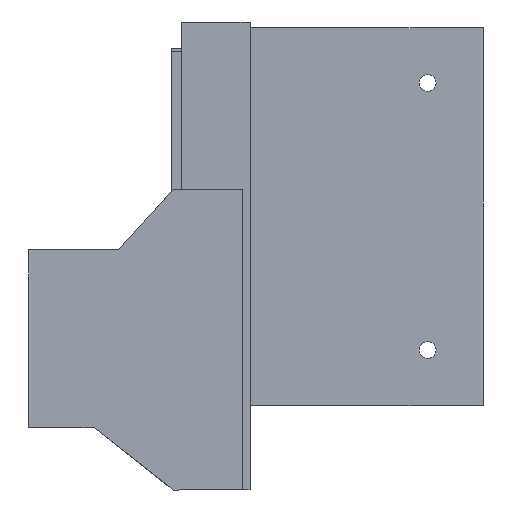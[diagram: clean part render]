
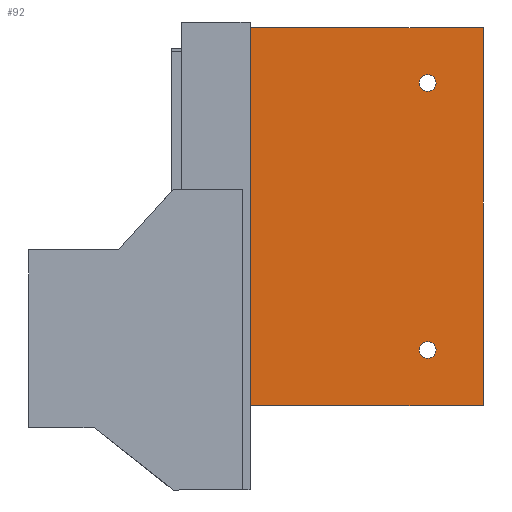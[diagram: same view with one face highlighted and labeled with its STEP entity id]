
A CAD part, front view. The second image highlights one B-rep face of the part: STEP entity #92.
In plain terms, the highlighted planar face has unit normal (0, -1, 0).
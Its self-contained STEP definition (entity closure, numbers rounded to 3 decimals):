
#44 = EDGE_CURVE ( 'NONE', #2313, #2314, #1084, .T. ) ;
#46 = EDGE_CURVE ( 'NONE', #2314, #2313, #1087, .T. ) ;
#92 = ADVANCED_FACE ( 'NONE', ( #962, #948, #966 ), #1528, .F. ) ;
#195 = VECTOR ( 'NONE', #1782, 1000. ) ;
#201 = LINE ( 'NONE', #1774, #195 ) ;
#202 = CIRCLE ( 'NONE', #516, 3. ) ;
#342 = ORIENTED_EDGE ( 'NONE', *, *, #1264, .T. ) ;
#409 = VERTEX_POINT ( 'NONE', #1652 ) ;
#486 = AXIS2_PLACEMENT_3D ( 'NONE', #1529, #1530, #1531 ) ;
#516 = AXIS2_PLACEMENT_3D ( 'NONE', #1777, #1779, #1780 ) ;
#524 = AXIS2_PLACEMENT_3D ( 'NONE', #2024, #1101, #1102 ) ;
#530 = ORIENTED_EDGE ( 'NONE', *, *, #2116, .T. ) ;
#534 = ORIENTED_EDGE ( 'NONE', *, *, #1265, .F. ) ;
#536 = ORIENTED_EDGE ( 'NONE', *, *, #2103, .T. ) ;
#541 = ORIENTED_EDGE ( 'NONE', *, *, #2131, .F. ) ;
#566 = ORIENTED_EDGE ( 'NONE', *, *, #1409, .F. ) ;
#610 = ORIENTED_EDGE ( 'NONE', *, *, #2111, .F. ) ;
#612 = LINE ( 'NONE', #1862, #613 ) ;
#613 = VECTOR ( 'NONE', #1863, 1000. ) ;
#645 = VECTOR ( 'NONE', #1940, 1000. ) ;
#655 = LINE ( 'NONE', #1928, #645 ) ;
#673 = LINE ( 'NONE', #1957, #674 ) ;
#674 = VECTOR ( 'NONE', #1958, 1000. ) ;
#676 = LINE ( 'NONE', #1965, #689 ) ;
#689 = VECTOR ( 'NONE', #1975, 1000. ) ;
#697 = LINE ( 'NONE', #1982, #698 ) ;
#698 = VECTOR ( 'NONE', #1983, 1000. ) ;
#699 = LINE ( 'NONE', #1984, #700 ) ;
#700 = VECTOR ( 'NONE', #1985, 1000. ) ;
#729 = LINE ( 'NONE', #2014, #730 ) ;
#730 = VECTOR ( 'NONE', #2015, 1000. ) ;
#756 = CIRCLE ( 'NONE', #524, 3. ) ;
#786 = ORIENTED_EDGE ( 'NONE', *, *, #2147, .T. ) ;
#856 = ORIENTED_EDGE ( 'NONE', *, *, #46, .T. ) ;
#866 = VERTEX_POINT ( 'NONE', #1675 ) ;
#869 = VERTEX_POINT ( 'NONE', #1680 ) ;
#870 = VERTEX_POINT ( 'NONE', #1681 ) ;
#889 = VERTEX_POINT ( 'NONE', #1700 ) ;
#892 = VERTEX_POINT ( 'NONE', #1703 ) ;
#893 = VERTEX_POINT ( 'NONE', #1704 ) ;
#948 = FACE_BOUND ( 'NONE', #1315, .T. ) ;
#962 = FACE_BOUND ( 'NONE', #2260, .T. ) ;
#966 = FACE_OUTER_BOUND ( 'NONE', #1320, .T. ) ;
#1084 = CIRCLE ( 'NONE', #2092, 3. ) ;
#1087 = CIRCLE ( 'NONE', #1296, 3. ) ;
#1101 = DIRECTION ( 'NONE',  ( 0., 1., 0. ) ) ;
#1102 = DIRECTION ( 'NONE',  ( -1., 0., 0. ) ) ;
#1122 = CARTESIAN_POINT ( 'NONE',  ( -71., 0., 116. ) ) ;
#1144 = CARTESIAN_POINT ( 'NONE',  ( -3., 0., 0. ) ) ;
#1174 = CARTESIAN_POINT ( 'NONE',  ( -71., 0., -20. ) ) ;
#1175 = CARTESIAN_POINT ( 'NONE',  ( 3., 0., 96. ) ) ;
#1176 = CARTESIAN_POINT ( 'NONE',  ( -3., 0., 96. ) ) ;
#1230 = CARTESIAN_POINT ( 'NONE',  ( 0., 0., 96. ) ) ;
#1232 = CARTESIAN_POINT ( 'NONE',  ( 0., 0., 96. ) ) ;
#1233 = DIRECTION ( 'NONE',  ( 0., 1., 0. ) ) ;
#1236 = DIRECTION ( 'NONE',  ( -1., 0., 0. ) ) ;
#1248 = DIRECTION ( 'NONE',  ( -1., 0., 0. ) ) ;
#1253 = DIRECTION ( 'NONE',  ( 0., 1., 0. ) ) ;
#1264 = EDGE_CURVE ( 'NONE', #893, #2282, #202, .T. ) ;
#1265 = EDGE_CURVE ( 'NONE', #2276, #892, #201, .T. ) ;
#1296 = AXIS2_PLACEMENT_3D ( 'NONE', #1230, #1253, #1248 ) ;
#1315 = EDGE_LOOP ( 'NONE', ( #856, #2201 ) ) ;
#1320 = EDGE_LOOP ( 'NONE', ( #566, #2213, #530, #541, #534, #610, #2247, #536 ) ) ;
#1409 = EDGE_CURVE ( 'NONE', #889, #409, #612, .T. ) ;
#1528 = PLANE ( 'NONE',  #486 ) ;
#1529 = CARTESIAN_POINT ( 'NONE',  ( -88.5, 0., 116. ) ) ;
#1530 = DIRECTION ( 'NONE',  ( 0., 1., 0. ) ) ;
#1531 = DIRECTION ( 'NONE',  ( -1., 0., 0. ) ) ;
#1652 = CARTESIAN_POINT ( 'NONE',  ( -91., 0., -9.75 ) ) ;
#1675 = CARTESIAN_POINT ( 'NONE',  ( 20., 0., -20. ) ) ;
#1680 = CARTESIAN_POINT ( 'NONE',  ( -91., 0., 105.75 ) ) ;
#1681 = CARTESIAN_POINT ( 'NONE',  ( -81.25, 0., 105.75 ) ) ;
#1700 = CARTESIAN_POINT ( 'NONE',  ( -81.25, 0., -9.75 ) ) ;
#1703 = CARTESIAN_POINT ( 'NONE',  ( 20., 0., 116. ) ) ;
#1704 = CARTESIAN_POINT ( 'NONE',  ( 3., 0., 0. ) ) ;
#1774 = CARTESIAN_POINT ( 'NONE',  ( -88.5, 0., 116. ) ) ;
#1777 = CARTESIAN_POINT ( 'NONE',  ( 0., 0., 0. ) ) ;
#1779 = DIRECTION ( 'NONE',  ( 0., 1., 0. ) ) ;
#1780 = DIRECTION ( 'NONE',  ( -1., 0., 0. ) ) ;
#1782 = DIRECTION ( 'NONE',  ( 1., 0., 0. ) ) ;
#1862 = CARTESIAN_POINT ( 'NONE',  ( -91., 0., -9.75 ) ) ;
#1863 = DIRECTION ( 'NONE',  ( -1., 0., 0. ) ) ;
#1928 = CARTESIAN_POINT ( 'NONE',  ( -81.25, 0., -9.75 ) ) ;
#1940 = DIRECTION ( 'NONE',  ( -0.707, 0., 0.707 ) ) ;
#1957 = CARTESIAN_POINT ( 'NONE',  ( -91., 0., 116. ) ) ;
#1958 = DIRECTION ( 'NONE',  ( 0., 0., -1. ) ) ;
#1965 = CARTESIAN_POINT ( 'NONE',  ( -81.25, 0., 105.75 ) ) ;
#1975 = DIRECTION ( 'NONE',  ( 0.707, 0., 0.707 ) ) ;
#1982 = CARTESIAN_POINT ( 'NONE',  ( -91., 0., 105.75 ) ) ;
#1983 = DIRECTION ( 'NONE',  ( 1., 0., 0. ) ) ;
#1984 = CARTESIAN_POINT ( 'NONE',  ( -88.5, 0., -20. ) ) ;
#1985 = DIRECTION ( 'NONE',  ( 1., 0., 0. ) ) ;
#2014 = CARTESIAN_POINT ( 'NONE',  ( 20., 0., 116. ) ) ;
#2015 = DIRECTION ( 'NONE',  ( 0., 0., -1. ) ) ;
#2024 = CARTESIAN_POINT ( 'NONE',  ( 0., 0., 0. ) ) ;
#2092 = AXIS2_PLACEMENT_3D ( 'NONE', #1232, #1233, #1236 ) ;
#2094 = EDGE_CURVE ( 'NONE', #2312, #889, #655, .T. ) ;
#2103 = EDGE_CURVE ( 'NONE', #869, #409, #673, .T. ) ;
#2111 = EDGE_CURVE ( 'NONE', #870, #2276, #676, .T. ) ;
#2115 = EDGE_CURVE ( 'NONE', #869, #870, #697, .T. ) ;
#2116 = EDGE_CURVE ( 'NONE', #2312, #866, #699, .T. ) ;
#2131 = EDGE_CURVE ( 'NONE', #892, #866, #729, .T. ) ;
#2147 = EDGE_CURVE ( 'NONE', #2282, #893, #756, .T. ) ;
#2201 = ORIENTED_EDGE ( 'NONE', *, *, #44, .T. ) ;
#2213 = ORIENTED_EDGE ( 'NONE', *, *, #2094, .F. ) ;
#2247 = ORIENTED_EDGE ( 'NONE', *, *, #2115, .F. ) ;
#2260 = EDGE_LOOP ( 'NONE', ( #786, #342 ) ) ;
#2276 = VERTEX_POINT ( 'NONE', #1122 ) ;
#2282 = VERTEX_POINT ( 'NONE', #1144 ) ;
#2312 = VERTEX_POINT ( 'NONE', #1174 ) ;
#2313 = VERTEX_POINT ( 'NONE', #1175 ) ;
#2314 = VERTEX_POINT ( 'NONE', #1176 ) ;
